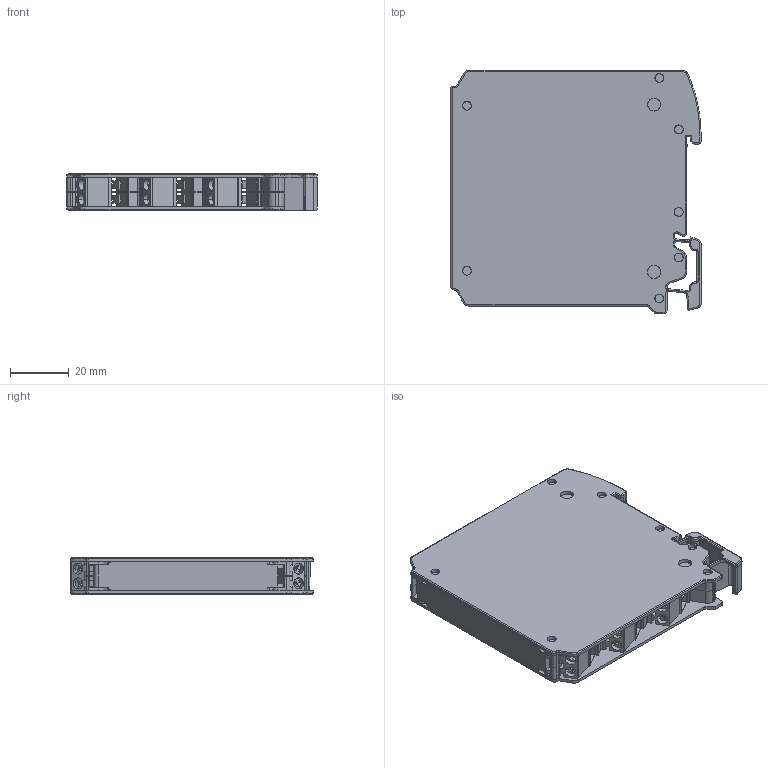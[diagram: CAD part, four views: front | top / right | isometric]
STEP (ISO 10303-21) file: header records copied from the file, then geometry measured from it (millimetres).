
FILE_DESCRIPTION (( 'STEP AP214' ), '1' );
FILE_NAME ('TinyMAX.STEP', '2022-10-30T19:56:06', ( '' ), ( '' ), 'SwSTEP 2.0', 'SolidWorks 2021', '' );
FILE_SCHEMA (( 'AUTOMOTIVE_DESIGN' ));
Length unit declared in the file: millimetre
Products named in the file (1): TinyMAX
Bounding box: 85 x 82.5 x 12.5 mm (x, y, z)
Surface area: 33956.3 mm2 (no closed solid volume)
Topology: 0 solids, 19 shells, 897 faces, 3155 edges, 2219 vertices
Faces by surface type: plane 492, cylinder 239, cone 96, bspline 70
Entity records: 47346 total; most frequent: CARTESIAN_POINT 12952, ORIENTED_EDGE 5219, DIRECTION 4360, EDGE_CURVE 3155, VERTEX_POINT 2219, VECTOR 1864, LINE 1864, AXIS2_PLACEMENT_3D 1248
